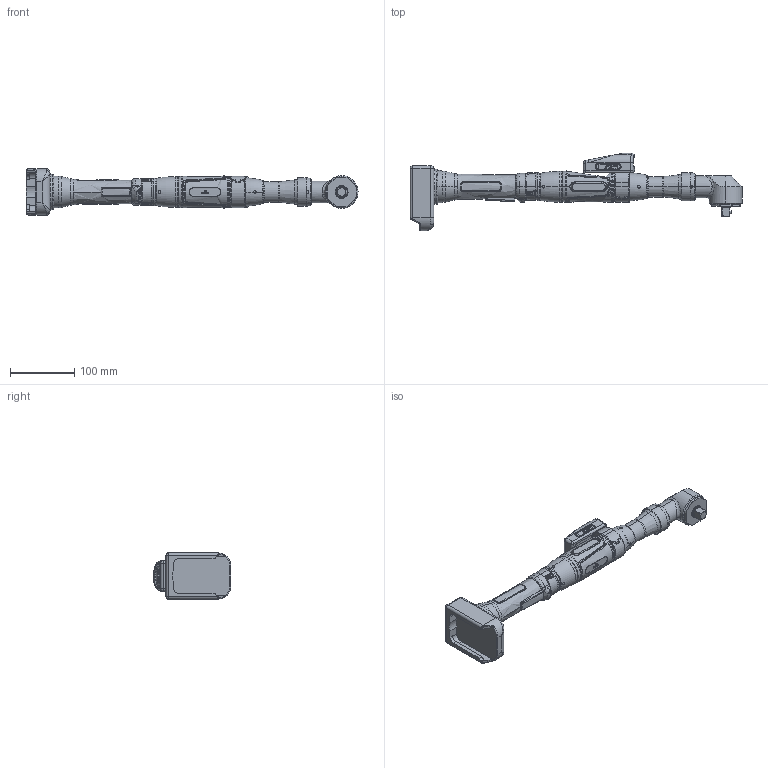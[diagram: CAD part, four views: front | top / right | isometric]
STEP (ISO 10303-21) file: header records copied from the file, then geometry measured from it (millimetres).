
FILE_DESCRIPTION (( 'STEP AP214' ), '1' );
FILE_NAME ('70122801_HSXBW1095WV12D.STEP', '2026-04-01T06:12:35', ( '' ), ( '' ), 'SwSTEP 2.0', 'SolidWorks 2020', '' );
FILE_SCHEMA (( 'AUTOMOTIVE_DESIGN' ));
Length unit declared in the file: millimetre
Products named in the file (1): 70122801_HSXBW1095WV12D
Bounding box: 517.95 x 120.8 x 72 mm (x, y, z)
Volume: 936037.8 mm3; surface area: 147402.8 mm2
Topology: 7 solids, 9 shells, 2343 faces, 5969 edges, 3711 vertices
Faces by surface type: plane 824, cylinder 717, bspline 432, torus 208, cone 132, sphere 30
Entity records: 125179 total; most frequent: CARTESIAN_POINT 46411, ORIENTED_EDGE 11874, DIRECTION 10015, EDGE_CURVE 5937, AXIS2_PLACEMENT_3D 3774, VERTEX_POINT 3708, VECTOR 2467, LINE 2467
